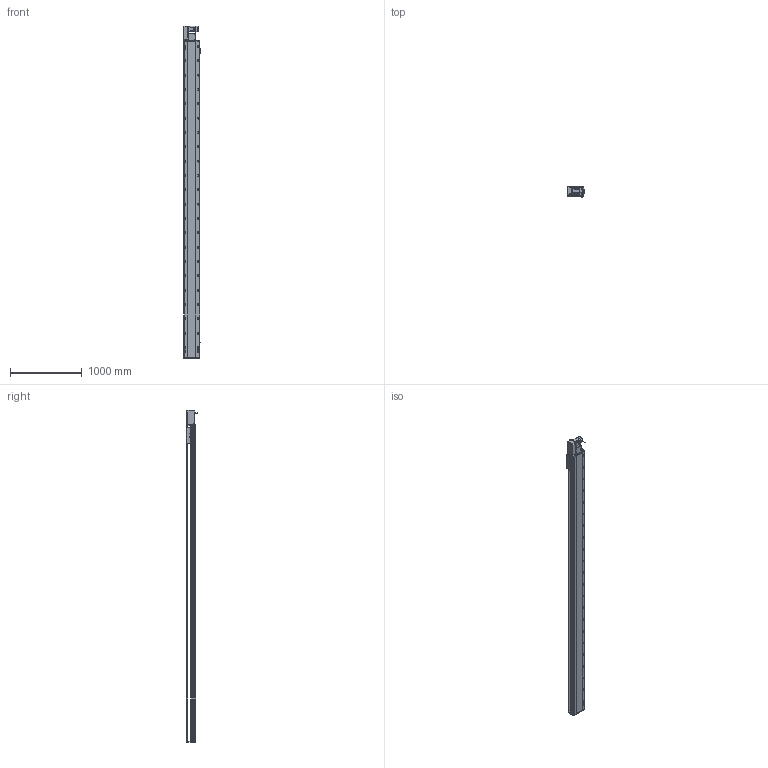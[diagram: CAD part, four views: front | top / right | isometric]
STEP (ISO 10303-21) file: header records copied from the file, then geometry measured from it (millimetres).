
FILE_DESCRIPTION (( 'STEP AP214' ), '1' );
FILE_NAME ('RTB22S-XX-4050-L-M75-C4.STEP', '2025-12-12T03:39:34', ( '' ), ( '' ), 'SwSTEP 2.0', 'SolidWorks 2018', '' );
FILE_SCHEMA (( 'AUTOMOTIVE_DESIGN' ));
Length unit declared in the file: millimetre
Products named in the file (14): RTB22S-XX-4050-L-M75-C4; RTB22S-GY-005P^RTB22S-L-々湍釱蚾饜_RTB22S-XX-XX-L-M75-C4; OMRON EE-SX672 传感器^RTB22S-XX-XX-L-M75-C4; RTB22S-L-々湍釱蚾饜^RTB22S-XX-XX-L-M75-C4; RTB22S-L-011菁釱^RTB22S-XX-XX-L-M75-C4; RTH22-GY-013外置感应片^RTB22S-XX-XX-L-M75-C4; 750W萇儂^RTB22S-XX-XX-L-M75-C4; RTB22S-GY-007奻裔^RTB22S-XX-XX-L-M75-C4; RTB22S-GY-008-M75--萇儂啣^RTB22S-L-々湍釱蚾饜_RTB22S-XX-XX-L-M75-C4; RTB22S-GY-018P^RTB22S-L-々湍釱蚾饜_RTB22S-XX-XX-L-M75-C4; RTB22S-GY-017P^RTB22S-L-々湍釱蚾饜_RTB22S-XX-XX-L-M75-C4; RTB22S-GY-014--々湍釱^RTB22S-L-々湍釱蚾饜_RTB22S-XX-XX-L-M75-C4; RTB22S-GY-001耜裔^RTB22S-XX-XX-L-M75-C4; RTB22S-L-004賑釱^RTB22S-XX-XX-L-M75-C4
Assembly tree (16 placements, depth 3):
  RTB22S-XX-4050-L-M75-C4
    RTB22S-L-011菁釱^RTB22S-XX-XX-L-M75-C4
    750W萇儂^RTB22S-XX-XX-L-M75-C4
    RTB22S-L-004賑釱^RTB22S-XX-XX-L-M75-C4
    OMRON EE-SX672 传感器^RTB22S-XX-XX-L-M75-C4  x3
    RTH22-GY-013外置感应片^RTB22S-XX-XX-L-M75-C4
    RTB22S-GY-007奻裔^RTB22S-XX-XX-L-M75-C4
    RTB22S-GY-001耜裔^RTB22S-XX-XX-L-M75-C4
    RTB22S-L-々湍釱蚾饜^RTB22S-XX-XX-L-M75-C4
      RTB22S-GY-014--々湍釱^RTB22S-L-々湍釱蚾饜_RTB22S-XX-XX-L-M75-C4
      RTB22S-GY-017P^RTB22S-L-々湍釱蚾饜_RTB22S-XX-XX-L-M75-C4  x2
      RTB22S-GY-005P^RTB22S-L-々湍釱蚾饜_RTB22S-XX-XX-L-M75-C4
      RTB22S-GY-008-M75--萇儂啣^RTB22S-L-々湍釱蚾饜_RTB22S-XX-XX-L-M75-C4
      RTB22S-GY-018P^RTB22S-L-々湍釱蚾饜_RTB22S-XX-XX-L-M75-C4
Bounding box: 238.5 x 162.7 x 4629 mm (x, y, z)
Volume: 56817308.9 mm3; surface area: 5770912.1 mm2
Topology: 15 solids, 15 shells, 2253 faces, 6136 edges, 3902 vertices
Faces by surface type: plane 945, cylinder 802, bspline 296, cone 198, sphere 8, torus 4
Entity records: 62638 total; most frequent: CARTESIAN_POINT 17392, ORIENTED_EDGE 8940, DIRECTION 8864, EDGE_CURVE 4470, AXIS2_PLACEMENT_3D 3226, VERTEX_POINT 2906, LINE 2412, VECTOR 2412
